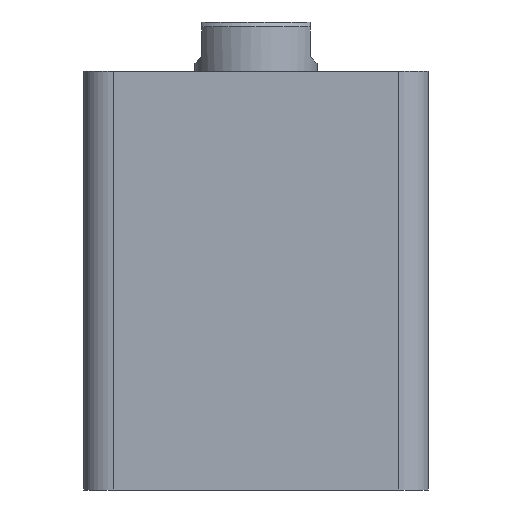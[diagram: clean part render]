
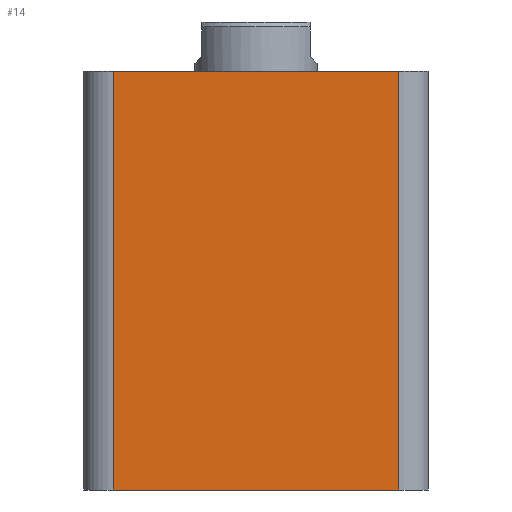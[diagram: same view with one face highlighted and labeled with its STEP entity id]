
A CAD part, front view. The second image highlights one B-rep face of the part: STEP entity #14.
In plain terms, the highlighted planar face has unit normal (0, -1, 0).
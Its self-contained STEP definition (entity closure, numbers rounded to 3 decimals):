
#14 = ADVANCED_FACE ( 'NONE', ( #361 ), #1545, .F. ) ;
#198 = VECTOR ( 'NONE', #2506, 1000. ) ;
#200 = VECTOR ( 'NONE', #2521, 1000. ) ;
#201 = LINE ( 'NONE', #2510, #198 ) ;
#202 = VECTOR ( 'NONE', #2524, 1000. ) ;
#204 = VECTOR ( 'NONE', #2529, 1000. ) ;
#205 = LINE ( 'NONE', #2528, #202 ) ;
#207 = LINE ( 'NONE', #2531, #204 ) ;
#224 = LINE ( 'NONE', #2600, #200 ) ;
#361 = FACE_OUTER_BOUND ( 'NONE', #544, .T. ) ;
#544 = EDGE_LOOP ( 'NONE', ( #1104, #1106, #1108, #1110 ) ) ;
#697 = AXIS2_PLACEMENT_3D ( 'NONE', #1542, #1527, #1517 ) ;
#735 = EDGE_CURVE ( 'NONE', #1310, #1333, #207, .T. ) ;
#736 = EDGE_CURVE ( 'NONE', #1310, #1350, #205, .T. ) ;
#737 = EDGE_CURVE ( 'NONE', #1350, #1305, #224, .T. ) ;
#738 = EDGE_CURVE ( 'NONE', #1305, #1333, #201, .T. ) ;
#1104 = ORIENTED_EDGE ( 'NONE', *, *, #735, .F. ) ;
#1106 = ORIENTED_EDGE ( 'NONE', *, *, #736, .T. ) ;
#1108 = ORIENTED_EDGE ( 'NONE', *, *, #737, .T. ) ;
#1110 = ORIENTED_EDGE ( 'NONE', *, *, #738, .T. ) ;
#1305 = VERTEX_POINT ( 'NONE', #2358 ) ;
#1310 = VERTEX_POINT ( 'NONE', #2351 ) ;
#1333 = VERTEX_POINT ( 'NONE', #2317 ) ;
#1350 = VERTEX_POINT ( 'NONE', #2297 ) ;
#1517 = DIRECTION ( 'NONE',  ( 0., 0., 1. ) ) ;
#1527 = DIRECTION ( 'NONE',  ( 0., 1., 0. ) ) ;
#1542 = CARTESIAN_POINT ( 'NONE',  ( -35., -35., 85. ) ) ;
#1545 = PLANE ( 'NONE',  #697 ) ;
#2297 = CARTESIAN_POINT ( 'NONE',  ( -29., -35., 0. ) ) ;
#2317 = CARTESIAN_POINT ( 'NONE',  ( 29., -35., 85. ) ) ;
#2351 = CARTESIAN_POINT ( 'NONE',  ( -29., -35., 85. ) ) ;
#2358 = CARTESIAN_POINT ( 'NONE',  ( 29., -35., 0. ) ) ;
#2506 = DIRECTION ( 'NONE',  ( 0., 0., 1. ) ) ;
#2510 = CARTESIAN_POINT ( 'NONE',  ( 29., -35., 85. ) ) ;
#2521 = DIRECTION ( 'NONE',  ( 1., 0., 0. ) ) ;
#2524 = DIRECTION ( 'NONE',  ( 0., 0., -1. ) ) ;
#2528 = CARTESIAN_POINT ( 'NONE',  ( -29., -35., 85. ) ) ;
#2529 = DIRECTION ( 'NONE',  ( 1., 0., 0. ) ) ;
#2531 = CARTESIAN_POINT ( 'NONE',  ( -35., -35., 85. ) ) ;
#2600 = CARTESIAN_POINT ( 'NONE',  ( -35., -35., 0. ) ) ;
